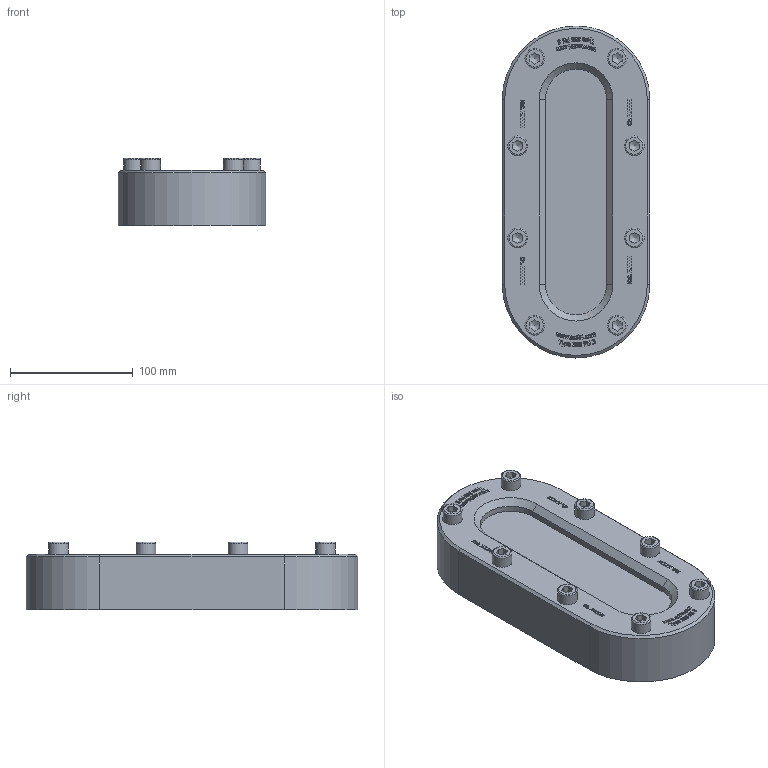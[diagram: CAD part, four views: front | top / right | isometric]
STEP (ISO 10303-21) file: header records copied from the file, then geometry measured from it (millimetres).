
FILE_DESCRIPTION(/* description */ (''),/* implementation_level */ '2;1');
FILE_NAME(/* name */ 'W:\Konstruktion_ACI\335\_Zeichnungen\STEP\ACI-335-270.stp',/* time_stamp */ '2022-03-01T17:49:15+01:00',/* author */ ('koslowksi'),/* organization */ ('ACI Industriearmaturen'),/* preprocessor_version */ 'ST-DEVELOPER v16.1',/* originating_system */ 'Autodesk Inventor 2016',/* authorisation */ '');
FILE_SCHEMA (('AUTOMOTIVE_DESIGN { 1 0 10303 214 3 1 1 }'));
Length unit declared in the file: centimetre
Products named in the file (1): ACI-335-270.stp
Bounding box: 120 x 270 x 54.9 mm (x, y, z)
Volume: 1050253 mm3; surface area: 106400.7 mm2
Topology: 1 solids, 1 shells, 1348 faces, 3704 edges, 2464 vertices
Faces by surface type: plane 890, bspline 424, cylinder 14, cone 12, torus 8
Full cylindrical faces by diameter (mm): 16 x8
Entity records: 45516 total; most frequent: CARTESIAN_POINT 13069, ORIENTED_EDGE 7328, DIRECTION 4658, EDGE_CURVE 3664, LINE 2728, VECTOR 2728, VERTEX_POINT 2448, EDGE_LOOP 1478
